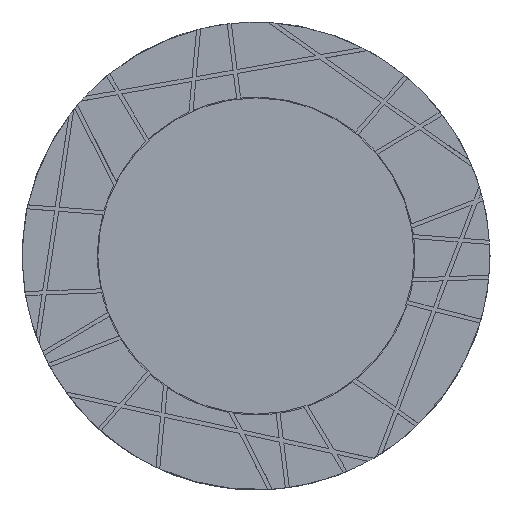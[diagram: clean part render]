
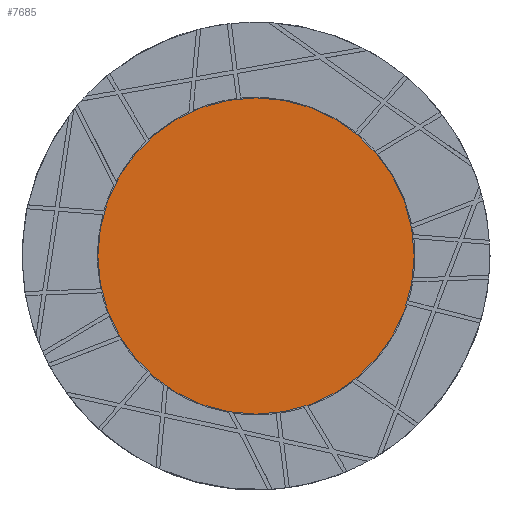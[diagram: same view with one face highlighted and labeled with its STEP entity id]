
A CAD part, top view. The second image highlights one B-rep face of the part: STEP entity #7685.
In plain terms, the highlighted planar face has unit normal (0, 0, 1).
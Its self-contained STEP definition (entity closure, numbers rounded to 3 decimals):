
#4099=CARTESIAN_POINT('',(472.952,0.,4.0));
#4100=VERTEX_POINT('',#4099);
#4101=CARTESIAN_POINT('',(0.0,0.0,4.0));
#4102=DIRECTION('',(0.0,0.0,1.0));
#4103=DIRECTION('',(-1.0,0.0,0.0));
#4104=AXIS2_PLACEMENT_3D('',#4101,#4102,#4103);
#4105=CIRCLE('',#4104,472.952);
#4106=EDGE_CURVE('',#4100,#4100,#4105,.T.);
#7677=CARTESIAN_POINT('',(0.0,0.0,4.0));
#7678=DIRECTION('',(0.0,0.0,-1.0));
#7679=DIRECTION('',(-1.0,0.0,0.0));
#7680=AXIS2_PLACEMENT_3D('',#7677,#7678,#7679);
#7681=PLANE('',#7680);
#7682=ORIENTED_EDGE('',*,*,#4106,.T.);
#7683=EDGE_LOOP('',(#7682));
#7684=FACE_OUTER_BOUND('',#7683,.T.);
#7685=ADVANCED_FACE('',(#7684),#7681,.F.);
